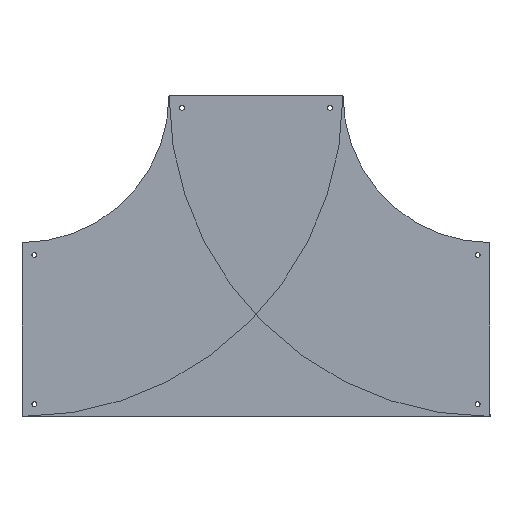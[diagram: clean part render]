
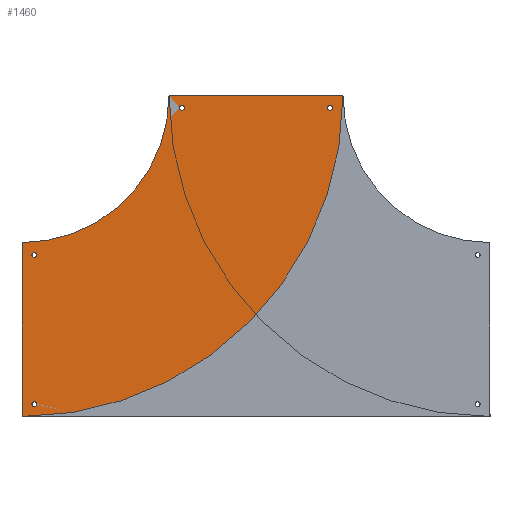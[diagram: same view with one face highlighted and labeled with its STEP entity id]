
A CAD part, top view. The second image highlights one B-rep face of the part: STEP entity #1460.
In plain terms, the highlighted planar face has unit normal (0, 0, 1).
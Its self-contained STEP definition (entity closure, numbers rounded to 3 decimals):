
#89=FACE_BOUND('',#365,.T.);
#90=FACE_BOUND('',#366,.T.);
#91=FACE_BOUND('',#367,.T.);
#92=FACE_BOUND('',#368,.T.);
#149=CIRCLE('',#1604,651.5);
#150=CIRCLE('',#1605,298.5);
#151=CIRCLE('',#1606,5.);
#152=CIRCLE('',#1607,5.);
#153=CIRCLE('',#1608,5.);
#154=CIRCLE('',#1609,5.);
#155=CIRCLE('',#1610,5.);
#156=CIRCLE('',#1611,5.);
#157=CIRCLE('',#1612,5.);
#158=CIRCLE('',#1613,5.);
#268=FACE_OUTER_BOUND('',#364,.T.);
#364=EDGE_LOOP('',(#1224,#1225,#1226,#1227));
#365=EDGE_LOOP('',(#1228,#1229));
#366=EDGE_LOOP('',(#1230,#1231));
#367=EDGE_LOOP('',(#1232,#1233));
#368=EDGE_LOOP('',(#1234,#1235));
#488=LINE('',#2427,#602);
#492=LINE('',#2436,#606);
#602=VECTOR('',#1972,304.8);
#606=VECTOR('',#1978,304.8);
#718=VERTEX_POINT('',#2425);
#719=VERTEX_POINT('',#2426);
#722=VERTEX_POINT('',#2434);
#723=VERTEX_POINT('',#2435);
#726=VERTEX_POINT('',#2445);
#727=VERTEX_POINT('',#2446);
#728=VERTEX_POINT('',#2449);
#729=VERTEX_POINT('',#2450);
#730=VERTEX_POINT('',#2453);
#731=VERTEX_POINT('',#2454);
#732=VERTEX_POINT('',#2457);
#733=VERTEX_POINT('',#2458);
#892=EDGE_CURVE('',#718,#719,#488,.T.);
#896=EDGE_CURVE('',#722,#723,#492,.T.);
#900=EDGE_CURVE('',#718,#723,#149,.T.);
#901=EDGE_CURVE('',#722,#719,#150,.T.);
#902=EDGE_CURVE('',#726,#727,#151,.T.);
#903=EDGE_CURVE('',#727,#726,#152,.T.);
#904=EDGE_CURVE('',#728,#729,#153,.T.);
#905=EDGE_CURVE('',#729,#728,#154,.T.);
#906=EDGE_CURVE('',#730,#731,#155,.T.);
#907=EDGE_CURVE('',#731,#730,#156,.T.);
#908=EDGE_CURVE('',#732,#733,#157,.T.);
#909=EDGE_CURVE('',#733,#732,#158,.T.);
#1224=ORIENTED_EDGE('',*,*,#892,.F.);
#1225=ORIENTED_EDGE('',*,*,#900,.T.);
#1226=ORIENTED_EDGE('',*,*,#896,.F.);
#1227=ORIENTED_EDGE('',*,*,#901,.T.);
#1228=ORIENTED_EDGE('',*,*,#902,.T.);
#1229=ORIENTED_EDGE('',*,*,#903,.T.);
#1230=ORIENTED_EDGE('',*,*,#904,.T.);
#1231=ORIENTED_EDGE('',*,*,#905,.T.);
#1232=ORIENTED_EDGE('',*,*,#906,.T.);
#1233=ORIENTED_EDGE('',*,*,#907,.T.);
#1234=ORIENTED_EDGE('',*,*,#908,.T.);
#1235=ORIENTED_EDGE('',*,*,#909,.T.);
#1396=PLANE('',#1603);
#1460=ADVANCED_FACE('',(#268,#89,#90,#91,#92),#1396,.T.);
#1603=AXIS2_PLACEMENT_3D('',#2442,#1982,#1983);
#1604=AXIS2_PLACEMENT_3D('',#2443,#1984,#1985);
#1605=AXIS2_PLACEMENT_3D('',#2444,#1986,#1987);
#1606=AXIS2_PLACEMENT_3D('',#2447,#1988,#1989);
#1607=AXIS2_PLACEMENT_3D('',#2448,#1990,#1991);
#1608=AXIS2_PLACEMENT_3D('',#2451,#1992,#1993);
#1609=AXIS2_PLACEMENT_3D('',#2452,#1994,#1995);
#1610=AXIS2_PLACEMENT_3D('',#2455,#1996,#1997);
#1611=AXIS2_PLACEMENT_3D('',#2456,#1998,#1999);
#1612=AXIS2_PLACEMENT_3D('',#2459,#2000,#2001);
#1613=AXIS2_PLACEMENT_3D('',#2460,#2002,#2003);
#1972=DIRECTION('',(0.,1.,0.));
#1978=DIRECTION('',(1.,0.,0.));
#1982=DIRECTION('center_axis',(0.,0.,1.));
#1983=DIRECTION('ref_axis',(0.,-1.,0.));
#1984=DIRECTION('center_axis',(0.,0.,1.));
#1985=DIRECTION('ref_axis',(0.,-1.,0.));
#1986=DIRECTION('center_axis',(0.,0.,-1.));
#1987=DIRECTION('ref_axis',(0.,-1.,0.));
#1988=DIRECTION('center_axis',(0.,0.,-1.));
#1989=DIRECTION('ref_axis',(1.,0.,0.));
#1990=DIRECTION('center_axis',(0.,0.,-1.));
#1991=DIRECTION('ref_axis',(1.,0.,0.));
#1992=DIRECTION('center_axis',(0.,0.,-1.));
#1993=DIRECTION('ref_axis',(1.,0.,0.));
#1994=DIRECTION('center_axis',(0.,0.,-1.));
#1995=DIRECTION('ref_axis',(1.,0.,0.));
#1996=DIRECTION('center_axis',(0.,0.,-1.));
#1997=DIRECTION('ref_axis',(1.,0.,0.));
#1998=DIRECTION('center_axis',(0.,0.,-1.));
#1999=DIRECTION('ref_axis',(1.,0.,0.));
#2000=DIRECTION('center_axis',(0.,0.,-1.));
#2001=DIRECTION('ref_axis',(1.,0.,0.));
#2002=DIRECTION('center_axis',(0.,0.,-1.));
#2003=DIRECTION('ref_axis',(1.,0.,0.));
#2425=CARTESIAN_POINT('',(-475.,-176.5,1.5));
#2426=CARTESIAN_POINT('',(-475.,176.5,1.5));
#2427=CARTESIAN_POINT('',(-475.,-176.5,1.5));
#2434=CARTESIAN_POINT('',(-176.5,475.,1.5));
#2435=CARTESIAN_POINT('',(176.5,475.,1.5));
#2436=CARTESIAN_POINT('',(-176.5,475.,1.5));
#2442=CARTESIAN_POINT('Origin',(-475.,475.,1.5));
#2443=CARTESIAN_POINT('Origin',(-475.,475.,1.5));
#2444=CARTESIAN_POINT('Origin',(-475.,475.,1.5));
#2445=CARTESIAN_POINT('',(-445.,-151.5,1.5));
#2446=CARTESIAN_POINT('',(-455.,-151.5,1.5));
#2447=CARTESIAN_POINT('Origin',(-450.,-151.5,1.5));
#2448=CARTESIAN_POINT('Origin',(-450.,-151.5,1.5));
#2449=CARTESIAN_POINT('',(-445.,151.5,1.5));
#2450=CARTESIAN_POINT('',(-455.,151.5,1.5));
#2451=CARTESIAN_POINT('Origin',(-450.,151.5,1.5));
#2452=CARTESIAN_POINT('Origin',(-450.,151.5,1.5));
#2453=CARTESIAN_POINT('',(-145.,450.,1.5));
#2454=CARTESIAN_POINT('',(-155.,450.,1.5));
#2455=CARTESIAN_POINT('Origin',(-150.,450.,1.5));
#2456=CARTESIAN_POINT('Origin',(-150.,450.,1.5));
#2457=CARTESIAN_POINT('',(155.,450.,1.5));
#2458=CARTESIAN_POINT('',(145.,450.,1.5));
#2459=CARTESIAN_POINT('Origin',(150.,450.,1.5));
#2460=CARTESIAN_POINT('Origin',(150.,450.,1.5));
